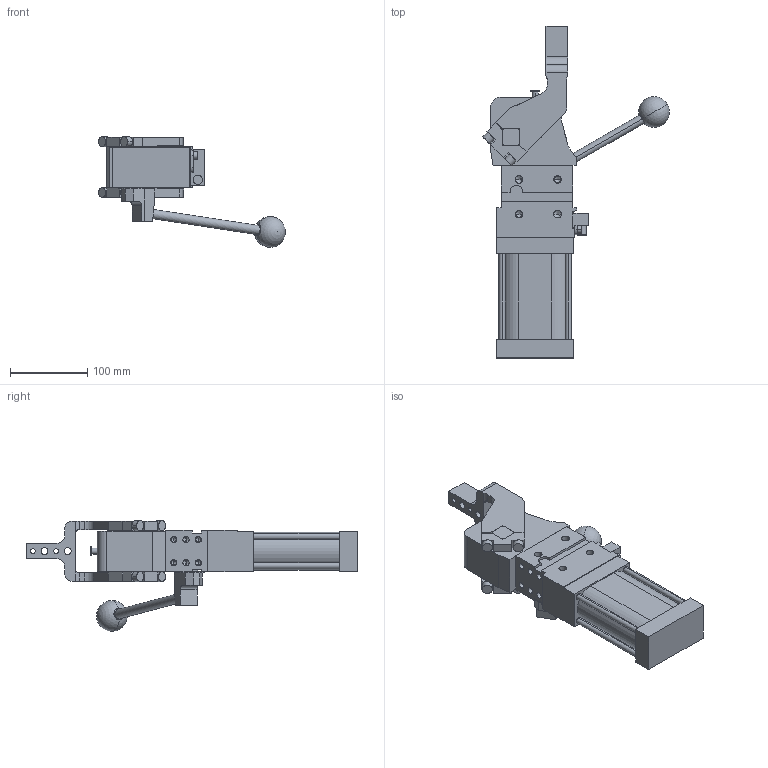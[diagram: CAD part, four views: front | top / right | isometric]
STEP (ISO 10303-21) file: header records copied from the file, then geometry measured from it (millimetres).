
FILE_DESCRIPTION (( 'STEP AP214' ), '1' );
FILE_NAME ('cplm63lbh3csi1g_75.STEP', '2023-01-26T14:56:40', ( '' ), ( '' ), 'SwSTEP 2.0', 'SolidWorks 2022', '' );
FILE_SCHEMA (( 'AUTOMOTIVE_DESIGN' ));
Length unit declared in the file: millimetre
Products named in the file (5): blocchetto_VEP_0; comando_manuale_cplm_63; cplm63lbh3csi1g_75; meccanica_cplm_63; leva_cx_offset_45_cpl63
Assembly tree (4 placements, depth 2):
  cplm63lbh3csi1g_75
    meccanica_cplm_63
    blocchetto_VEP_0
    leva_cx_offset_45_cpl63
    comando_manuale_cplm_63
Bounding box: 242.06 x 430.5 x 143.5 mm (x, y, z)
Volume: 1879230.1 mm3; surface area: 210274.1 mm2
Topology: 4 solids, 4 shells, 432 faces, 1134 edges, 703 vertices
Faces by surface type: plane 219, cylinder 161, cone 50, sphere 2
Entity records: 14579 total; most frequent: DIRECTION 2315, CARTESIAN_POINT 2298, ORIENTED_EDGE 2166, EDGE_CURVE 1083, AXIS2_PLACEMENT_3D 799, VECTOR 717, LINE 717, VERTEX_POINT 700
